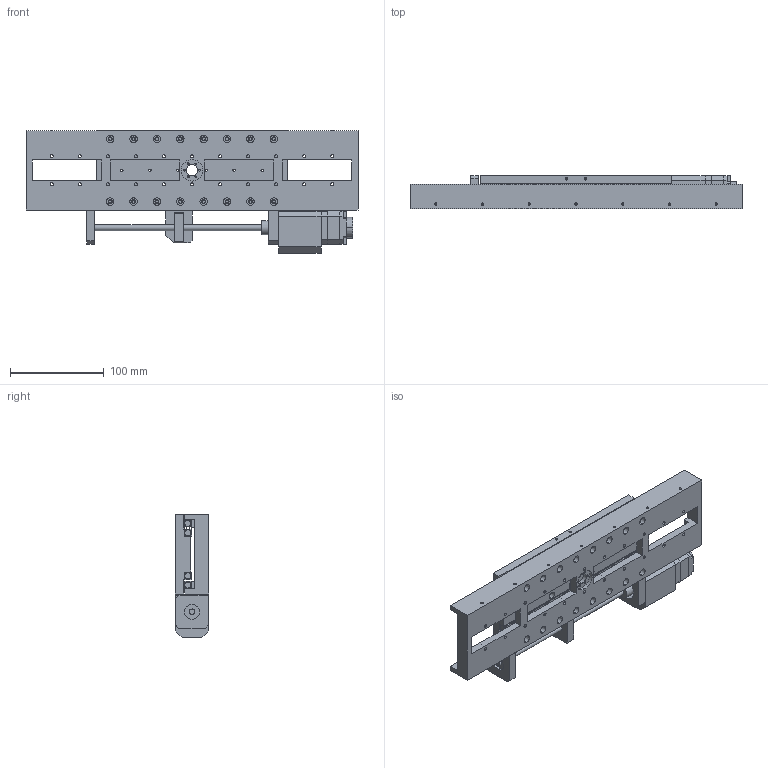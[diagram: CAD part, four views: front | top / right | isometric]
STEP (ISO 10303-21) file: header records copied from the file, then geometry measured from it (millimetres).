
FILE_DESCRIPTION (( 'STEP AP214' ), '1' );
FILE_NAME ('VSM17-X-150-HR.STEP', '2022-12-15T14:26:18', ( '' ), ( '' ), 'SwSTEP 2.0', 'SolidWorks 2022', '' );
FILE_SCHEMA (( 'AUTOMOTIVE_DESIGN' ));
Length unit declared in the file: millimetre
Products named in the file (9): VSM17-X-150-HR; Simplified Leadscrew Nut; Simplified Motor Gearbox; Simplified Motor; Simplified Drivetrain_VSM17-X-150; Simplified Roller Bearing 150; Simplified VSM17-X-150 Base V2; Simplified VSM17-X-150 Carriage; Simplified Gearbox
Assembly tree (11 placements, depth 3):
  VSM17-X-150-HR
    Simplified VSM17-X-150 Base V2
    Simplified Roller Bearing 150  x4
    Simplified VSM17-X-150 Carriage
    Simplified Leadscrew Nut
    Simplified Drivetrain_VSM17-X-150
    Simplified Motor Gearbox
      Simplified Gearbox
      Simplified Motor
Bounding box: 355 x 36 x 131.5 mm (x, y, z)
Volume: 695961.6 mm3; surface area: 212442 mm2
Topology: 10 solids, 10 shells, 997 faces, 2512 edges, 1593 vertices
Faces by surface type: cylinder 510, plane 321, cone 150, torus 16
Entity records: 23691 total; most frequent: DIRECTION 4024, CARTESIAN_POINT 3775, ORIENTED_EDGE 3512, EDGE_CURVE 1756, AXIS2_PLACEMENT_3D 1564, VERTEX_POINT 1149, EDGE_LOOP 1003, VECTOR 896
